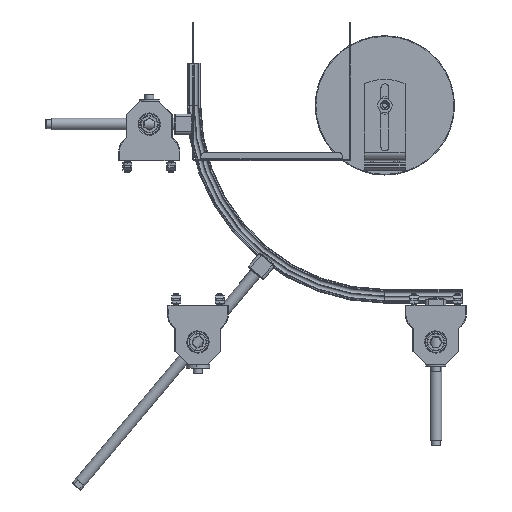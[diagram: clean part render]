
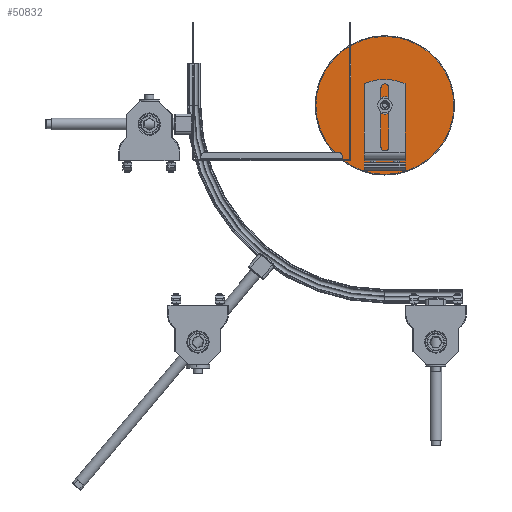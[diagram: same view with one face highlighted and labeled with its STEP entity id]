
A CAD part, front view. The second image highlights one B-rep face of the part: STEP entity #50832.
In plain terms, the highlighted planar face has unit normal (0, -1, 0) as drawn and (0, 1, 0) by its records, which use the part's own axes.
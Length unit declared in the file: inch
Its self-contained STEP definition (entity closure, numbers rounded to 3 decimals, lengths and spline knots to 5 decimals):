
#50671=CARTESIAN_POINT('',(0.,0.405,0.));
#50672=DIRECTION('',(0.,1.,0.));
#50673=DIRECTION('',(0.,0.,1.));
#50674=AXIS2_PLACEMENT_3D('',#50671,#50672,#50673);
#50676=CARTESIAN_POINT('',(0.,0.405,0.));
#50677=DIRECTION('',(0.,1.,0.));
#50678=DIRECTION('',(0.,0.,-1.));
#50679=AXIS2_PLACEMENT_3D('',#50676,#50677,#50678);
#50681=CARTESIAN_POINT('',(0.,0.405,0.));
#50682=DIRECTION('',(0.,-1.,0.));
#50683=DIRECTION('',(0.,0.,-1.));
#50684=AXIS2_PLACEMENT_3D('',#50681,#50682,#50683);
#50686=CARTESIAN_POINT('',(0.,0.405,0.));
#50687=DIRECTION('',(0.,-1.,0.));
#50688=DIRECTION('',(0.,0.,1.));
#50689=AXIS2_PLACEMENT_3D('',#50686,#50687,#50688);
#50703=CARTESIAN_POINT('',(0.,0.405,2.97));
#50704=CARTESIAN_POINT('',(0.,0.405,-2.97));
#50705=VERTEX_POINT('',#50703);
#50706=VERTEX_POINT('',#50704);
#50707=CARTESIAN_POINT('',(0.,0.405,-0.2525));
#50709=VERTEX_POINT('',#50707);
#50719=CARTESIAN_POINT('',(0.,0.405,0.2525));
#50720=VERTEX_POINT('',#50719);
#50817=CARTESIAN_POINT('',(0.,0.405,0.));
#50818=DIRECTION('',(0.,1.,0.));
#50819=DIRECTION('',(0.,0.,1.));
#50820=AXIS2_PLACEMENT_3D('',#50817,#50818,#50819);
#50821=PLANE('',#50820);
#50822=ORIENTED_EDGE('',*,*,#50796,.F.);
#50823=ORIENTED_EDGE('',*,*,#50809,.F.);
#50824=EDGE_LOOP('',(#50822,#50823));
#50825=FACE_OUTER_BOUND('',#50824,.F.);
#50827=ORIENTED_EDGE('',*,*,#50826,.F.);
#50829=ORIENTED_EDGE('',*,*,#50828,.F.);
#50830=EDGE_LOOP('',(#50827,#50829));
#50831=FACE_BOUND('',#50830,.F.);
#50675=CIRCLE('',#50674,2.97);
#50680=CIRCLE('',#50679,2.97);
#50685=CIRCLE('',#50684,0.2525);
#50690=CIRCLE('',#50689,0.2525);
#50796=EDGE_CURVE('',#50705,#50706,#50675,.T.);
#50809=EDGE_CURVE('',#50706,#50705,#50680,.T.);
#50826=EDGE_CURVE('',#50709,#50720,#50685,.T.);
#50828=EDGE_CURVE('',#50720,#50709,#50690,.T.);
#50832=ADVANCED_FACE('',(#50825,#50831),#50821,.T.);
